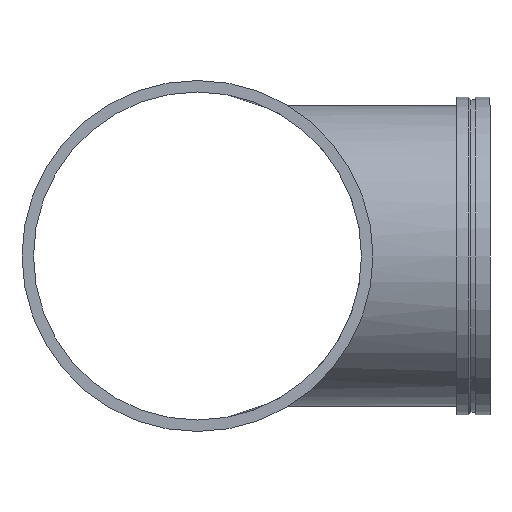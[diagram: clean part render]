
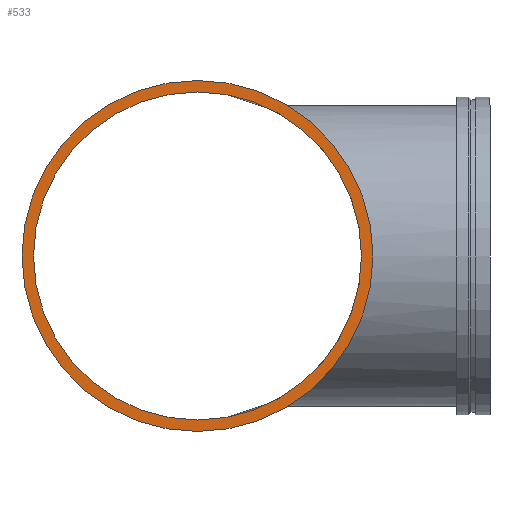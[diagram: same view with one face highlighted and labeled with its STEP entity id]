
A CAD part, left-side view. The second image highlights one B-rep face of the part: STEP entity #533.
In plain terms, the highlighted planar face has unit normal (-1, 0, 0).
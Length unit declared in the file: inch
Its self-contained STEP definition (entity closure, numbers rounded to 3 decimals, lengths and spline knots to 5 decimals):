
#58=FACE_BOUND('',#128,.T.);
#67=PLANE('',#626);
#92=FACE_OUTER_BOUND('',#127,.T.);
#127=EDGE_LOOP('',(#465,#466));
#128=EDGE_LOOP('',(#467,#468));
#151=CIRCLE('',#587,21.);
#152=CIRCLE('',#588,21.);
#175=CIRCLE('',#624,19.625);
#176=CIRCLE('',#625,19.625);
#239=VERTEX_POINT('',#1161);
#240=VERTEX_POINT('',#1163);
#263=VERTEX_POINT('',#1230);
#264=VERTEX_POINT('',#1232);
#299=EDGE_CURVE('',#239,#240,#151,.T.);
#300=EDGE_CURVE('',#240,#239,#152,.T.);
#331=EDGE_CURVE('',#264,#263,#175,.T.);
#332=EDGE_CURVE('',#263,#264,#176,.T.);
#465=ORIENTED_EDGE('',*,*,#300,.F.);
#466=ORIENTED_EDGE('',*,*,#299,.F.);
#467=ORIENTED_EDGE('',*,*,#331,.T.);
#468=ORIENTED_EDGE('',*,*,#332,.T.);
#533=ADVANCED_FACE('',(#92,#58),#67,.T.);
#587=AXIS2_PLACEMENT_3D('',#1164,#716,#717);
#588=AXIS2_PLACEMENT_3D('',#1165,#718,#719);
#624=AXIS2_PLACEMENT_3D('',#1233,#798,#799);
#625=AXIS2_PLACEMENT_3D('',#1234,#800,#801);
#626=AXIS2_PLACEMENT_3D('',#1235,#802,#803);
#716=DIRECTION('center_axis',(1.,0.,0.));
#717=DIRECTION('ref_axis',(0.,0.,1.));
#718=DIRECTION('center_axis',(1.,0.,0.));
#719=DIRECTION('ref_axis',(0.,0.,1.));
#798=DIRECTION('center_axis',(1.,0.,0.));
#799=DIRECTION('ref_axis',(0.,0.,1.));
#800=DIRECTION('center_axis',(1.,0.,0.));
#801=DIRECTION('ref_axis',(0.,0.,1.));
#802=DIRECTION('center_axis',(-1.,0.,0.));
#803=DIRECTION('ref_axis',(0.,0.,-1.));
#1161=CARTESIAN_POINT('',(-35.5,21.,0.));
#1163=CARTESIAN_POINT('',(-35.5,-21.,0.));
#1164=CARTESIAN_POINT('Origin',(-35.5,0.,0.));
#1165=CARTESIAN_POINT('Origin',(-35.5,0.,0.));
#1230=CARTESIAN_POINT('',(-35.5,19.625,0.));
#1232=CARTESIAN_POINT('',(-35.5,-19.625,0.));
#1233=CARTESIAN_POINT('Origin',(-35.5,0.,0.));
#1234=CARTESIAN_POINT('Origin',(-35.5,0.,0.));
#1235=CARTESIAN_POINT('Origin',(-35.5,-21.,0.));
